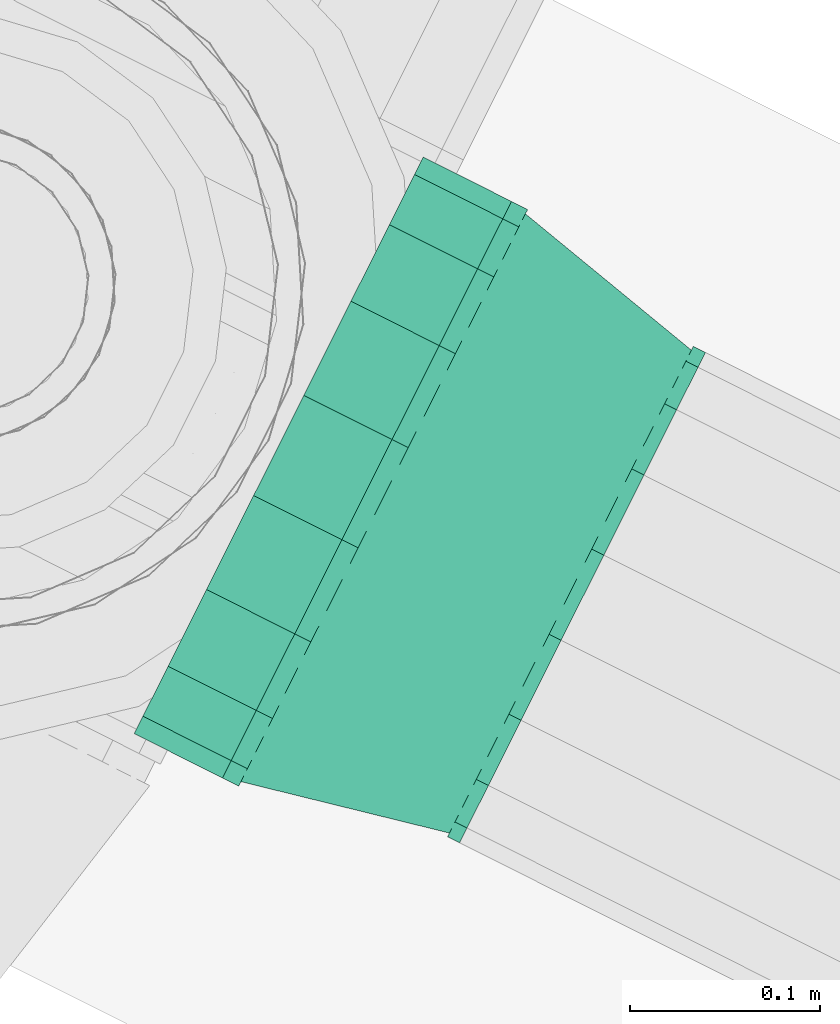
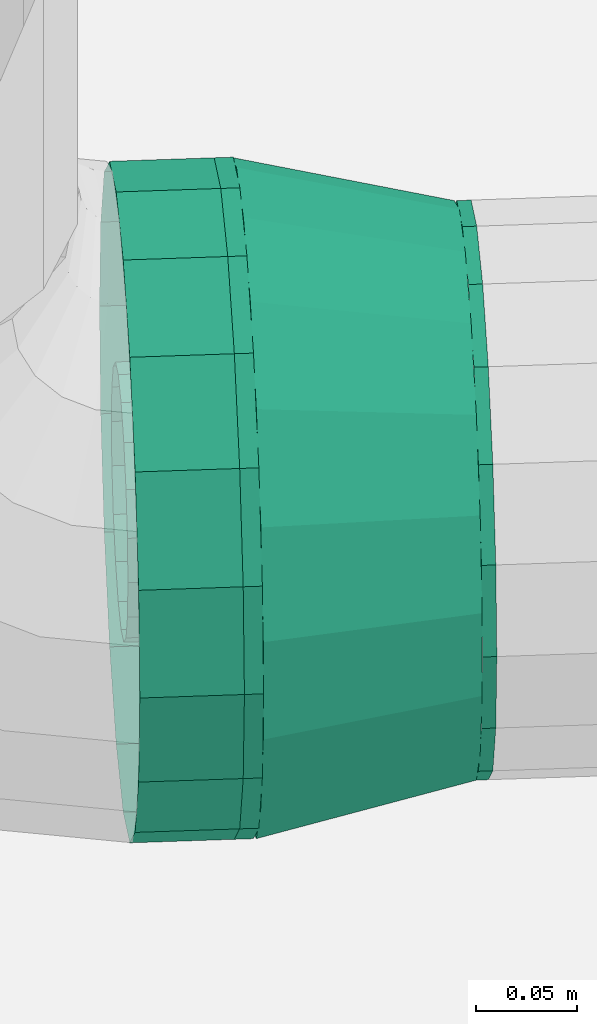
# One storey, part 104 of 152: 1 flow fitting, 1 flow segment.
"""IFC2X3 building model written with IfcOpenShell, lengths in metres."""

from ifc_helpers import new_model, si_unit, derived_unit, direction, frame, origin, place, context, subcontext, project, spatial, face_set, surface_model, source, transform, mapped, material, type_object, type_shapes, element, save


model = new_model("IFC2X3")

# Units and contexts
model_context = context("Model", 3, precision=5.2338327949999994e-05, world=origin(), true_north=direction((0.0, 1.0)))
body_context = subcontext(model_context, "Body", "Model", "MODEL_VIEW")
ifc_project = project(units=[si_unit("LENGTHUNIT", "METRE"), si_unit("AREAUNIT", "SQUARE_METRE"), si_unit("VOLUMEUNIT", "CUBIC_METRE"), si_unit("MASSUNIT", "GRAM", prefix="KILO"), si_unit("PLANEANGLEUNIT", "RADIAN"), derived_unit("THERMALTRANSMITTANCEUNIT", [(si_unit("MASSUNIT", "GRAM", prefix="KILO"), 1), (si_unit("THERMODYNAMICTEMPERATUREUNIT", "KELVIN"), -1), (si_unit("TIMEUNIT", "SECOND"), -3)])], contexts=[model_context])

# Site, building, storey
site_placement = place(None, frame((0.0, 0.0, 0.0), z_axis=(0.0, 0.0, 1.0), x_axis=(0.8939966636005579, -0.4480736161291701, 0.0)))
site = spatial("IfcSite", under=ifc_project, at=site_placement, Name="Default", CompositionType="ELEMENT")
building_placement = place(site_placement, origin())
building = spatial("IfcBuilding", under=site, at=building_placement, CompositionType="ELEMENT")
storey_placement = place(building_placement, frame((0.0, 0.0, 2.7499999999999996)))
storey = spatial("IfcBuildingStorey", under=building, at=storey_placement, Name="1. Obergeschoss", CompositionType="ELEMENT", Elevation=2.7499999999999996)

# Flow fitting
ifc_material = material(Name="IfcSurfaceStyle #9317")
distribution_element_type_1 = type_object("IfcDistributionElementType", Name="Übergangsstück 236794:Übergangsstück 236794", material=ifc_material)
shared_shape_1 = source(origin(), body_context, "Body", "SurfaceModel", [
    surface_model("IfcFaceBasedSurfaceModel", [(9.994770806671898, 6.547298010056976, 3.325154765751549), (9.994770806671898, 6.549978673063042, 3.3403575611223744), (9.987621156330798, 6.549978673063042, 3.3403575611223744), (9.987621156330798, 6.547298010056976, 3.325154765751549), (9.994770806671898, 6.557697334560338, 3.3537266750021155), (9.987621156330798, 6.557697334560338, 3.3537266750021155), (9.994770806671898, 6.569523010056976, 3.363649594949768), (9.987621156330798, 6.569523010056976, 3.363649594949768), (9.994770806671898, 6.58402934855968, 3.368929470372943), (9.987621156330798, 6.58402934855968, 3.368929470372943), (9.994770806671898, 6.5994666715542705, 3.368929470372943), (9.987621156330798, 6.5994666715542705, 3.368929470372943), (9.994770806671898, 6.613973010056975, 3.3636495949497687), (9.987621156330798, 6.613973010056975, 3.3636495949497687), (9.994770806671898, 6.6257986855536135, 3.353726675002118), (9.987621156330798, 6.6257986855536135, 3.353726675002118), (9.994770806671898, 6.633517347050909, 3.340357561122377), (9.987621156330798, 6.633517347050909, 3.340357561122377), (9.994770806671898, 6.636198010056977, 3.3251547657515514), (9.987621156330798, 6.636198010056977, 3.3251547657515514), (9.994770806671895, 6.63351734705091, 3.3099519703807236), (9.987621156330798, 6.63351734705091, 3.309951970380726), (9.994770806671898, 6.625798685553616, 3.2965828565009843), (9.987621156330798, 6.625798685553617, 3.296582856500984), (9.994770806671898, 6.613973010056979, 3.2866599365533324), (9.987621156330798, 6.613973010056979, 3.2866599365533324), (9.994770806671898, 6.599466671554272, 3.281380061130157), (9.987621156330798, 6.599466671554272, 3.281380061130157), (9.994770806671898, 6.584029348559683, 3.281380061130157), (9.987621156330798, 6.584029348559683, 3.281380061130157), (9.994770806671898, 6.569523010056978, 3.2866599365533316), (9.987621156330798, 6.569523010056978, 3.2866599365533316), (9.994770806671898, 6.557697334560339, 3.296582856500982), (9.987621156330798, 6.557697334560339, 3.296582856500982), (9.994770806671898, 6.549978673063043, 3.309951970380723), (9.987621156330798, 6.549978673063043, 3.309951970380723), (9.987621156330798, 6.591748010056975, 3.3696047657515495), (9.987621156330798, 6.6069508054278, 3.3669241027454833), (9.877299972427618, 6.615638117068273, 3.390792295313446), (9.877299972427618, 6.591748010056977, 3.39500476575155), (9.987621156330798, 6.620319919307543, 3.3592054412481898), (9.877299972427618, 6.636646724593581, 3.378662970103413), (9.987621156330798, 6.630242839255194, 3.347379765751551), (9.877299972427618, 6.652239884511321, 3.3600797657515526), (9.987621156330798, 6.635522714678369, 3.3328734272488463), (9.877299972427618, 6.6605368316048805, 3.3372840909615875), (9.987621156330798, 6.635522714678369, 3.3174361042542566), (9.877299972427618, 6.660536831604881, 3.3130254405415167), (9.987621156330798, 6.630242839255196, 3.3029297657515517), (9.877299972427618, 6.652239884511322, 3.290229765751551), (9.987621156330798, 6.620319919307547, 3.2911040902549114), (9.877299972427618, 6.636646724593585, 3.2716465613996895), (9.987621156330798, 6.606950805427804, 3.2833854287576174), (9.877299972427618, 6.615638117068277, 3.259517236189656), (9.987621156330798, 6.591748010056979, 3.2807047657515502), (9.877299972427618, 6.591748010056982, 3.25530476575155), (9.987621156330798, 6.576545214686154, 3.2833854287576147), (9.877299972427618, 6.567857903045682, 3.2595172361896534), (9.987621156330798, 6.563176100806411, 3.2911040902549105), (9.877299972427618, 6.546849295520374, 3.2716465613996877), (9.987621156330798, 6.553253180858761, 3.3029297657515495), (9.877299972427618, 6.531256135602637, 3.2902297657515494), (9.987621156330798, 6.547973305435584, 3.3174361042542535), (9.877299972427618, 6.522959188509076, 3.313025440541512), (9.987621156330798, 6.547973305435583, 3.3328734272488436), (9.877299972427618, 6.522959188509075, 3.3372840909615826), (9.987621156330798, 6.553253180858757, 3.347379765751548), (9.877299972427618, 6.531256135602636, 3.3600797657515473), (9.987621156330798, 6.563176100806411, 3.359205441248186), (9.877299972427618, 6.546849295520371, 3.378662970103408), (9.987621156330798, 6.57654521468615, 3.366924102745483), (9.877299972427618, 6.567857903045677, 3.390792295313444), (9.87729997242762, 6.521898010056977, 3.325154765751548), (9.87729997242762, 6.526110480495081, 3.349044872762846), (9.8677708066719, 6.526110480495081, 3.349044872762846), (9.8677708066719, 6.521898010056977, 3.325154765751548), (9.87729997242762, 6.538239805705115, 3.370053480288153), (9.8677708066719, 6.538239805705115, 3.370053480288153), (9.87729997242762, 6.556823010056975, 3.385646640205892), (9.8677708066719, 6.556823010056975, 3.385646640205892), (9.87729997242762, 6.57961868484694, 3.393943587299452), (9.8677708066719, 6.57961868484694, 3.393943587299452), (9.87729997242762, 6.60387733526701, 3.3939435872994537), (9.8677708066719, 6.60387733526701, 3.3939435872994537), (9.87729997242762, 6.626673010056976, 3.3856466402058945), (9.8677708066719, 6.626673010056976, 3.3856466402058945), (9.87729997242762, 6.645256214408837, 3.3700534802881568), (9.8677708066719, 6.645256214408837, 3.3700534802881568), (9.87729997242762, 6.657385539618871, 3.3490448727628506), (9.8677708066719, 6.657385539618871, 3.3490448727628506), (9.87729997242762, 6.661598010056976, 3.325154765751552), (9.8677708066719, 6.661598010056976, 3.325154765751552), (9.87729997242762, 6.657385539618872, 3.301264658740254), (9.8677708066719, 6.657385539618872, 3.301264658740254), (9.87729997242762, 6.645256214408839, 3.2802560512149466), (9.8677708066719, 6.645256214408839, 3.2802560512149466), (9.87729997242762, 6.62667301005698, 3.264662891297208), (9.8677708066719, 6.62667301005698, 3.264662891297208), (9.87729997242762, 6.603877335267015, 3.256365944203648), (9.8677708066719, 6.603877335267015, 3.256365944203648), (9.87729997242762, 6.5796186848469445, 3.256365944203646), (9.8677708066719, 6.5796186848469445, 3.256365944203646), (9.87729997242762, 6.556823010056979, 3.2646628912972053), (9.8677708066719, 6.556823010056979, 3.2646628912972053), (9.87729997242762, 6.538239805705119, 3.2802560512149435), (9.8677708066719, 6.538239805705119, 3.2802560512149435), (9.87729997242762, 6.526110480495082, 3.301264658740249), (9.8677708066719, 6.526110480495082, 3.301264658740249), (9.994770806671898, 6.4472980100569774, 3.3251547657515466), (9.994770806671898, 6.456009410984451, 3.374559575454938), (9.987621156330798, 6.456009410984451, 3.374559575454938), (9.987621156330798, 6.4472980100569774, 3.3251547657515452), (9.994770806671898, 6.481092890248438, 3.418005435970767), (9.987621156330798, 6.481092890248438, 3.418005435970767), (9.994770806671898, 6.519523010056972, 3.450252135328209), (9.987621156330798, 6.519523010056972, 3.450252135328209), (9.994770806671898, 6.566664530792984, 3.467410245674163), (9.987621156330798, 6.566664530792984, 3.467410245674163), (9.994770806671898, 6.616831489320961, 3.4674102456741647), (9.987621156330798, 6.616831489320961, 3.4674102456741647), (9.994770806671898, 6.6639730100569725, 3.4502521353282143), (9.987621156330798, 6.6639730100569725, 3.4502521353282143), (9.994770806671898, 6.70240312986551, 3.4180054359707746), (9.987621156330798, 6.70240312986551, 3.4180054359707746), (9.994770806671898, 6.7274866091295, 3.3745595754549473), (9.987621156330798, 6.7274866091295, 3.3745595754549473), (9.994770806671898, 6.736198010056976, 3.3251547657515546), (9.987621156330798, 6.736198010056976, 3.3251547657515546), (9.994770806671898, 6.727486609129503, 3.275749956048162), (9.987621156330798, 6.727486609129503, 3.275749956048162), (9.994770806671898, 6.702403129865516, 3.2323040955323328), (9.987621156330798, 6.702403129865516, 3.2323040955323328), (9.994770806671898, 6.663973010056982, 3.200057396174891), (9.987621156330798, 6.663973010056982, 3.200057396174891), (9.994770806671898, 6.616831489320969, 3.1828992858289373), (9.987621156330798, 6.616831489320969, 3.1828992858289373), (9.994770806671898, 6.566664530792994, 3.182899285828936), (9.987621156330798, 6.566664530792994, 3.182899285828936), (9.994770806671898, 6.5195230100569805, 3.200057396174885), (9.987621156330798, 6.5195230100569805, 3.200057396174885), (9.994770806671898, 6.481092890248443, 3.2323040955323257), (9.987621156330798, 6.481092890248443, 3.2323040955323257), (9.994770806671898, 6.4560094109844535, 3.2757499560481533), (9.987621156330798, 6.4560094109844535, 3.2757499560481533), (9.987621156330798, 6.591748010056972, 3.46960476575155), (9.987621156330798, 6.641152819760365, 3.460893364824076), (9.877299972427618, 6.649840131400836, 3.4847615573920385), (9.877299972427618, 6.59174801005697, 3.4950047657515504), (9.987621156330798, 6.684598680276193, 3.43580988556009), (9.877299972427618, 6.70092548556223, 3.455267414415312), (9.987621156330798, 6.716845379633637, 3.397379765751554), (9.877299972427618, 6.738842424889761, 3.410079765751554), (9.987621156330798, 6.734003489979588, 3.350238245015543), (9.877299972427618, 6.7590176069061, 3.354648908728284), (9.987621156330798, 6.734003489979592, 3.300071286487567), (9.877299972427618, 6.759017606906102, 3.295660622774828), (9.987621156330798, 6.716845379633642, 3.252929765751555), (9.877299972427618, 6.738842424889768, 3.2402297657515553), (9.987621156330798, 6.684598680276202, 3.214499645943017), (9.877299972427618, 6.700925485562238, 3.1950421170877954), (9.987621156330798, 6.641152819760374, 3.189416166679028), (9.877299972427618, 6.649840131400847, 3.165547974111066), (9.987621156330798, 6.591748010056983, 3.18070476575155), (9.877299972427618, 6.591748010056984, 3.1553047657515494), (9.987621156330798, 6.542343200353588, 3.189416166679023), (9.877299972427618, 6.533655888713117, 3.165547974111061), (9.987621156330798, 6.498897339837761, 3.2144996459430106), (9.877299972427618, 6.482570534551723, 3.195042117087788), (9.987621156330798, 6.466650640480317, 3.252929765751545), (9.877299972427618, 6.444653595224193, 3.2402297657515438), (9.987621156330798, 6.449492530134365, 3.300071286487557), (9.877299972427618, 6.4244784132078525, 3.2956606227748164), (9.987621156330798, 6.449492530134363, 3.3502382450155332), (9.877299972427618, 6.424478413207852, 3.354648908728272), (9.987621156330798, 6.46665064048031, 3.397379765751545), (9.877299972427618, 6.444653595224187, 3.4100797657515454), (9.987621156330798, 6.498897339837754, 3.4358098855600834), (9.877299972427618, 6.482570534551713, 3.4552674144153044), (9.987621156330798, 6.542343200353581, 3.4608933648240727), (9.877299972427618, 6.533655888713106, 3.484761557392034), (9.87729997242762, 6.421898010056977, 3.325154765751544), (9.87729997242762, 6.432141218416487, 3.3832468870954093), (9.8677708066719, 6.432141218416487, 3.3832468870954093), (9.8677708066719, 6.421898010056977, 3.325154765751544), (9.87729997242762, 6.461635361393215, 3.4343322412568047), (9.8677708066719, 6.461635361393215, 3.4343322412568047), (9.87729997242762, 6.506823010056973, 3.4722491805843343), (9.8677708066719, 6.506823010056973, 3.4722491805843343), (9.87729997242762, 6.562253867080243, 3.4924243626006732), (9.8677708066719, 6.562253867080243, 3.4924243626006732), (9.87729997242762, 6.621242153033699, 3.4924243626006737), (9.8677708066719, 6.621242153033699, 3.4924243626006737), (9.87729997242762, 6.676673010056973, 3.472249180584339), (9.8677708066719, 6.676673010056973, 3.472249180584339), (9.87729997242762, 6.721860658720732, 3.4343322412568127), (9.8677708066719, 6.721860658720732, 3.4343322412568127), (9.87729997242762, 6.751354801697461, 3.38324688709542), (9.8677708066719, 6.751354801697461, 3.38324688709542), (9.87729997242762, 6.761598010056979, 3.325154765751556), (9.8677708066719, 6.761598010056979, 3.325154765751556), (9.87729997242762, 6.751354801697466, 3.2670626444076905), (9.8677708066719, 6.751354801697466, 3.2670626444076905), (9.87729997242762, 6.72186065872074, 3.2159772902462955), (9.8677708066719, 6.72186065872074, 3.2159772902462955), (9.87729997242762, 6.676673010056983, 3.178060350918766), (9.8677708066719, 6.676673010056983, 3.178060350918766), (9.87729997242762, 6.62124215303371, 3.157885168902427), (9.8677708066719, 6.62124215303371, 3.157885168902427), (9.87729997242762, 6.562253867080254, 3.157885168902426), (9.8677708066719, 6.562253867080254, 3.157885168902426), (9.87729997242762, 6.5068230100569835, 3.17806035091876), (9.8677708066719, 6.5068230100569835, 3.17806035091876), (9.87729997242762, 6.461635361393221, 3.215977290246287), (9.8677708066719, 6.461635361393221, 3.215977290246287), (9.87729997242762, 6.432141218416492, 3.2670626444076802), (9.8677708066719, 6.432141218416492, 3.2670626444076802)], [face_set([[[0, 1, 2, 3]], [[1, 4, 5, 2]], [[4, 6, 7, 5]], [[6, 8, 9, 7]], [[8, 10, 11, 9]], [[10, 12, 13, 11]], [[12, 14, 15, 13]], [[14, 16, 17, 15]], [[16, 18, 19, 17]], [[18, 20, 21, 19]], [[20, 22, 23, 21]], [[22, 24, 25, 23]], [[24, 26, 27, 25]], [[26, 28, 29, 27]], [[28, 30, 31, 29]], [[30, 32, 33, 31]], [[32, 34, 35, 33]], [[34, 0, 3, 35]], [[36, 37, 38, 39]], [[37, 40, 41, 38]], [[40, 42, 43, 41]], [[42, 44, 45, 43]], [[44, 46, 47, 45]], [[46, 48, 49, 47]], [[48, 50, 51, 49]], [[50, 52, 53, 51]], [[52, 54, 55, 53]], [[54, 56, 57, 55]], [[56, 58, 59, 57]], [[58, 60, 61, 59]], [[60, 62, 63, 61]], [[62, 64, 65, 63]], [[64, 66, 67, 65]], [[66, 68, 69, 67]], [[68, 70, 71, 69]], [[70, 36, 39, 71]], [[72, 73, 74, 75]], [[73, 76, 77, 74]], [[76, 78, 79, 77]], [[78, 80, 81, 79]], [[80, 82, 83, 81]], [[82, 84, 85, 83]], [[84, 86, 87, 85]], [[86, 88, 89, 87]], [[88, 90, 91, 89]], [[90, 92, 93, 91]], [[92, 94, 95, 93]], [[94, 96, 97, 95]], [[96, 98, 99, 97]], [[98, 100, 101, 99]], [[100, 102, 103, 101]], [[102, 104, 105, 103]], [[104, 106, 107, 105]], [[106, 72, 75, 107]], [[108, 109, 110, 111]], [[109, 112, 113, 110]], [[112, 114, 115, 113]], [[114, 116, 117, 115]], [[116, 118, 119, 117]], [[118, 120, 121, 119]], [[120, 122, 123, 121]], [[122, 124, 125, 123]], [[124, 126, 127, 125]], [[126, 128, 129, 127]], [[128, 130, 131, 129]], [[130, 132, 133, 131]], [[132, 134, 135, 133]], [[134, 136, 137, 135]], [[136, 138, 139, 137]], [[138, 140, 141, 139]], [[140, 142, 143, 141]], [[142, 108, 111, 143]], [[144, 145, 146, 147]], [[145, 148, 149, 146]], [[148, 150, 151, 149]], [[150, 152, 153, 151]], [[152, 154, 155, 153]], [[154, 156, 157, 155]], [[156, 158, 159, 157]], [[158, 160, 161, 159]], [[160, 162, 163, 161]], [[162, 164, 165, 163]], [[164, 166, 167, 165]], [[166, 168, 169, 167]], [[168, 170, 171, 169]], [[170, 172, 173, 171]], [[172, 174, 175, 173]], [[174, 176, 177, 175]], [[176, 178, 179, 177]], [[178, 144, 147, 179]], [[180, 181, 182, 183]], [[181, 184, 185, 182]], [[184, 186, 187, 185]], [[186, 188, 189, 187]], [[188, 190, 191, 189]], [[190, 192, 193, 191]], [[192, 194, 195, 193]], [[194, 196, 197, 195]], [[196, 198, 199, 197]], [[198, 200, 201, 199]], [[200, 202, 203, 201]], [[202, 204, 205, 203]], [[204, 206, 207, 205]], [[206, 208, 209, 207]], [[208, 210, 211, 209]], [[210, 212, 213, 211]], [[212, 214, 215, 213]], [[214, 180, 183, 215]]])]),
])
type_shapes(distribution_element_type_1, [shared_shape_1])
flow_fitting_placement = place(storey_placement, frame((0.0, 0.0, -2.7499999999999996)))
element("IfcFlowFitting", 1, at=flow_fitting_placement, inside=storey, type_object=distribution_element_type_1, material=ifc_material, Name="Übergangsstück", ObjectType="Übergangsstück", context=body_context, shape_type="MappedRepresentation", body=[
    mapped(shared_shape_1, transform((0.0, 0.0, 0.0), scale=1.0)),
])

# Flow segment
distribution_element_type_2 = type_object("IfcDistributionElementType", Name="Stahlrohr nach DIN 2448 236817:Stahlrohr nach DIN 2448 236817", material=ifc_material)
shared_shape_2 = source(origin(), body_context, "Body", "SurfaceModel", [
    surface_model("IfcFaceBasedSurfaceModel", [(9.8677708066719, 6.661598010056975, 3.325154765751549), (9.8677708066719, 6.657385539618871, 3.301264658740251), (9.8157708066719, 6.657385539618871, 3.301264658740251), (9.8157708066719, 6.661598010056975, 3.325154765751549), (9.8677708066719, 6.645256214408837, 3.2802560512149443), (9.8157708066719, 6.645256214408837, 3.2802560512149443), (9.8677708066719, 6.626673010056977, 3.2646628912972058), (9.8157708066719, 6.626673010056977, 3.2646628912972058), (9.8677708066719, 6.603877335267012, 3.2563659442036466), (9.8157708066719, 6.603877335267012, 3.2563659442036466), (9.8677708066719, 6.579618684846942, 3.2563659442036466), (9.8157708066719, 6.579618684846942, 3.2563659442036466), (9.8677708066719, 6.556823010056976, 3.2646628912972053), (9.8157708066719, 6.556823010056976, 3.2646628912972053), (9.8677708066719, 6.538239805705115, 3.2802560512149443), (9.8157708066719, 6.538239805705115, 3.2802560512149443), (9.8677708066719, 6.526110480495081, 3.3012646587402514), (9.8157708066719, 6.526110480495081, 3.3012646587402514), (9.8677708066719, 6.521898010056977, 3.325154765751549), (9.8157708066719, 6.521898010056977, 3.325154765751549), (9.8677708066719, 6.526110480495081, 3.349044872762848), (9.8157708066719, 6.526110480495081, 3.349044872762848), (9.8677708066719, 6.538239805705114, 3.370053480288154), (9.8157708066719, 6.538239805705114, 3.370053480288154), (9.8677708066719, 6.556823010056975, 3.3856466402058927), (9.8157708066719, 6.556823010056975, 3.3856466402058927), (9.8677708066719, 6.57961868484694, 3.393943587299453), (9.8157708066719, 6.57961868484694, 3.393943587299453), (9.8677708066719, 6.60387733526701, 3.393943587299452), (9.8157708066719, 6.60387733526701, 3.393943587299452), (9.8677708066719, 6.626673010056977, 3.385646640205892), (9.8157708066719, 6.626673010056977, 3.385646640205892), (9.8677708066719, 6.6452562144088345, 3.3700534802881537), (9.8157708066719, 6.6452562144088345, 3.3700534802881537), (9.8677708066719, 6.657385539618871, 3.3490448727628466), (9.8157708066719, 6.657385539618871, 3.3490448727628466), (9.8677708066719, 6.761598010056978, 3.3251547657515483), (9.8677708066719, 6.751354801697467, 3.2670626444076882), (9.8157708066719, 6.751354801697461, 3.2670626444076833), (9.8157708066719, 6.761598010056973, 3.3251547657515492), (9.8677708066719, 6.721860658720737, 3.2159772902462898), (9.8157708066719, 6.721860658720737, 3.2159772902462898), (9.8677708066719, 6.676673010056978, 3.1780603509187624), (9.8157708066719, 6.676673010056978, 3.1780603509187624), (9.8677708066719, 6.6212421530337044, 3.1578851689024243), (9.8157708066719, 6.6212421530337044, 3.1578851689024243), (9.8677708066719, 6.5622538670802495, 3.157885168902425), (9.8157708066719, 6.5622538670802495, 3.157885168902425), (9.8677708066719, 6.506823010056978, 3.178060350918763), (9.8157708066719, 6.506823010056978, 3.178060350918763), (9.8677708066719, 6.461635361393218, 3.21597729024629), (9.8157708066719, 6.461635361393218, 3.21597729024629), (9.8677708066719, 6.432141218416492, 3.267062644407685), (9.8157708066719, 6.432141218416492, 3.267062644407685), (9.8677708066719, 6.421898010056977, 3.3251547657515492), (9.8157708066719, 6.421898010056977, 3.3251547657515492), (9.8677708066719, 6.432141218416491, 3.3832468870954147), (9.8157708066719, 6.432141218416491, 3.3832468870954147), (9.8677708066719, 6.461635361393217, 3.4343322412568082), (9.8157708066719, 6.461635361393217, 3.4343322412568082), (9.8677708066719, 6.506823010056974, 3.472249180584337), (9.8157708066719, 6.506823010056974, 3.472249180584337), (9.8677708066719, 6.562253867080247, 3.4924243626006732), (9.8157708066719, 6.562253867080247, 3.4924243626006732), (9.8677708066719, 6.621242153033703, 3.4924243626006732), (9.8157708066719, 6.621242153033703, 3.4924243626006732), (9.8677708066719, 6.676673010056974, 3.472249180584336), (9.8157708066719, 6.676673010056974, 3.472249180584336), (9.8677708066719, 6.721860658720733, 3.4343322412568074), (9.8157708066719, 6.721860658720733, 3.4343322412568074), (9.8677708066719, 6.751354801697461, 3.3832468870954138), (9.8157708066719, 6.751354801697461, 3.3832468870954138)], [face_set([[[0, 1, 2, 3]], [[1, 4, 5, 2]], [[4, 6, 7, 5]], [[6, 8, 9, 7]], [[8, 10, 11, 9]], [[10, 12, 13, 11]], [[12, 14, 15, 13]], [[14, 16, 17, 15]], [[16, 18, 19, 17]], [[18, 20, 21, 19]], [[20, 22, 23, 21]], [[22, 24, 25, 23]], [[24, 26, 27, 25]], [[26, 28, 29, 27]], [[28, 30, 31, 29]], [[30, 32, 33, 31]], [[32, 34, 35, 33]], [[34, 0, 3, 35]], [[36, 37, 38, 39]], [[37, 40, 41, 38]], [[40, 42, 43, 41]], [[42, 44, 45, 43]], [[44, 46, 47, 45]], [[46, 48, 49, 47]], [[48, 50, 51, 49]], [[50, 52, 53, 51]], [[52, 54, 55, 53]], [[54, 56, 57, 55]], [[56, 58, 59, 57]], [[58, 60, 61, 59]], [[60, 62, 63, 61]], [[62, 64, 65, 63]], [[64, 66, 67, 65]], [[66, 68, 69, 67]], [[68, 70, 71, 69]], [[70, 36, 39, 71]]])]),
])
type_shapes(distribution_element_type_2, [shared_shape_2])
flow_segment_placement = place(storey_placement, frame((0.0, 0.0, -2.7499999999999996)))
element("IfcFlowSegment", 2, at=flow_segment_placement, inside=storey, type_object=distribution_element_type_2, material=ifc_material, Name="Stahlrohr nach DIN 2448", ObjectType="Stahlrohr nach DIN 2448", context=body_context, shape_type="MappedRepresentation", body=[
    mapped(shared_shape_2, transform((0.0, 0.0, 0.0), scale=1.0)),
])

save(model, "model.ifc")
